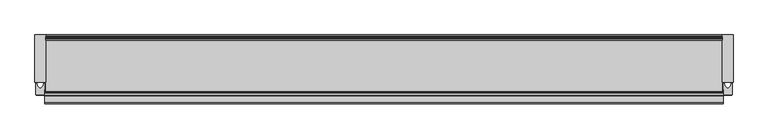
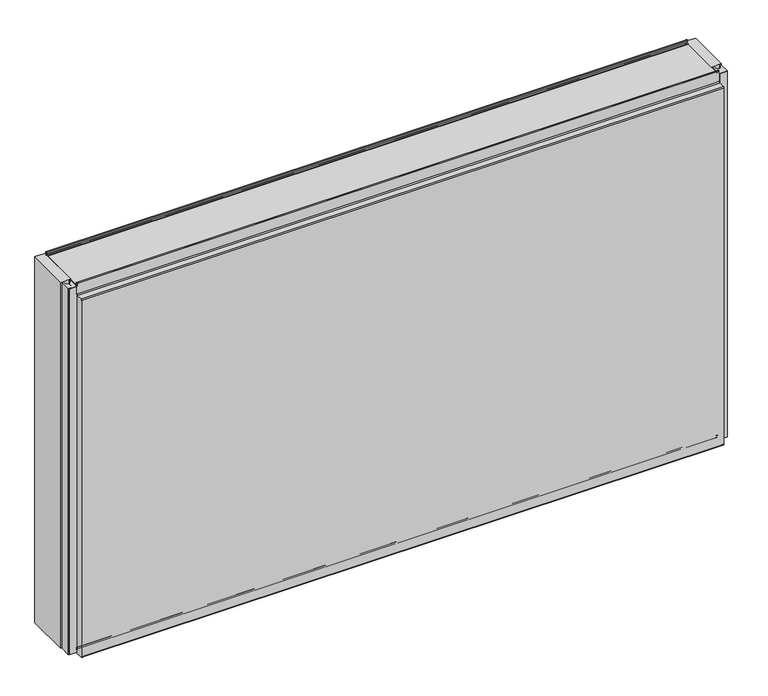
"""IFC4 building model written with IfcOpenShell, lengths in millimetres: plate geometry, Fronttop : Fronttop 200/1190."""

from ifc_helpers import new_model, si_unit, point, frame, frame_2d, origin, origin_with_axes, place, context, project, spatial, polyline, circle_curve, trimmed, segment, composite_curve, outline, extrude, source, transform, mapped, element, save
from ifc_brep_helpers import plane_surface, cylinder_surface, revolved_surface, advanced_brep


def plate_f993ad24(model_context):
    return source(origin(), model_context, "Body", "SolidModel", [
        advanced_brep(
        [(-986.5, -174.0, 1198.0), (-986.5, -174.0, 1190.0), (-986.5, -175.0, 1190.0), (-986.5, -175.0, 1198.0), (-986.5, -170.0, 1198.0), (-986.5, -170.0, 1194.0), (-986.5, -167.0, 1191.0), (-986.5, -165.0, 1191.0), (-986.5, -165.0, 1190.0), (-986.5, -167.0, 1190.0), (-986.5, -171.0, 1194.0), (-986.5, -171.0, 1198.0), (986.5, -175.0, 1198.0), (986.5, -175.0, 1190.0), (986.5, -174.0, 1190.0), (986.5, -174.0, 1198.0), (986.5, -171.0, 1198.0), (986.5, -171.0, 1194.0), (986.5, -167.0, 1190.0), (986.5, -165.0, 1190.0), (986.5, -165.0, 1191.0), (986.5, -167.0, 1191.0), (986.5, -170.0, 1194.0), (986.5, -170.0, 1198.0), (-986.5, -167.0, 2.0), (-986.5, -165.0, 2.0), (986.5, -165.0, 2.0), (986.5, -167.0, 2.0), (986.5, -169.0, 4.0), (-986.5, -169.0, 4.0), (986.5, -169.0, 8.0), (-986.5, -169.0, 8.0), (986.5, -176.0, 8.0), (-986.5, -176.0, 8.0), (986.5, -176.0, 0.0), (-986.5, -176.0, 0.0), (986.5, -179.0, -3.0), (-986.5, -179.0, -3.0), (986.5, -175.0, -3.0), (987.5, -175.0, -3.0), (987.5, -197.0, -3.0), (986.5, -197.0, -3.0), (-986.5, -197.0, -3.0), (-987.5, -197.0, -3.0), (-987.5, -175.0, -3.0), (-986.5, -175.0, -3.0), (986.5, -200.0, 0.0), (-986.5, -200.0, 0.0), (987.5, -200.0, 0.0), (987.5, -200.0, 1159.0), (986.5, -200.0, 1159.0), (-986.5, -200.0, 1159.0), (-987.5, -200.0, 1159.0), (-987.5, -200.0, 0.0), (986.5, -197.0, 1162.0), (-986.5, -197.0, 1162.0), (987.5, -197.0, 1162.0), (987.5, -178.0, 1162.0), (986.5, -178.0, 1162.0), (-986.5, -178.0, 1162.0), (-987.5, -178.0, 1162.0), (-987.5, -197.0, 1162.0), (986.5, -175.0, 1165.0), (-986.5, -175.0, 1165.0), (987.5, -175.0, 1165.0), (987.5, -175.0, 1190.0), (-987.5, -175.0, 1190.0), (-987.5, -175.0, 1165.0), (986.5, -174.0, 1165.0), (-986.5, -174.0, 1165.0), (986.5, -178.0, 1161.0), (-986.5, -178.0, 1161.0), (986.5, -197.0, 1161.0), (-986.5, -197.0, 1161.0), (986.5, -199.0, 1159.0), (-986.5, -199.0, 1159.0), (986.5, -199.0, 0.0), (-986.5, -199.0, 0.0), (986.5, -197.0, -2.0), (-986.5, -197.0, -2.0), (986.5, -179.0, -2.0), (-986.5, -179.0, -2.0), (986.5, -177.0, 0.0), (-986.5, -177.0, 0.0), (986.5, -177.0, 8.0), (-986.5, -177.0, 8.0), (986.5, -168.0, 8.0), (-986.5, -168.0, 8.0), (986.5, -168.0, 4.0), (-986.5, -168.0, 4.0), (986.5, -167.0, 3.0), (-986.5, -167.0, 3.0), (986.5, -165.0, 3.0), (-986.5, -165.0, 3.0), (987.5, -175.0, 0.0), (987.5, -160.0, 0.0), (987.5, -160.0, 1190.0), (986.5, -160.0, 1190.0), (986.5, -160.0, 0.0), (986.5, -175.0, 0.0), (-987.5, -160.0, 1190.0), (-987.5, -160.0, 0.0), (-987.5, -175.0, 0.0), (-986.5, -160.0, 1190.0), (-986.5, -175.0, 0.0), (-986.5, -160.0, 0.0)],
        [
            (0, 1),
            (1, 2),
            (2, 3),
            (3, 4, circle_curve(frame((-986.5, -172.5, 1198.0), z_axis=(-1.0, 0.0, 0.0), x_axis=(0.0, 1.0, 0.0)), 2.5)),
            (4, 5),
            (5, 6, circle_curve(frame((-986.5, -167.0, 1194.0), z_axis=(1.0, 0.0, 0.0), x_axis=(0.0, 1.0, 0.0)), 3.0)),
            (6, 7),
            (7, 8),
            (8, 9),
            (9, 10, circle_curve(frame((-986.5, -167.0, 1194.0), z_axis=(-1.0, 0.0, 0.0), x_axis=(0.0, 1.0, 0.0)), 4.0)),
            (10, 11),
            (11, 0, circle_curve(frame((-986.5, -172.5, 1198.0), z_axis=(1.0, 0.0, 0.0), x_axis=(0.0, 1.0, 0.0)), 1.5)),
            (12, 13),
            (13, 14),
            (14, 15),
            (15, 16, circle_curve(frame((986.5, -172.5, 1198.0), z_axis=(-1.0, 0.0, 0.0), x_axis=(0.0, 1.0, 0.0)), 1.5)),
            (16, 17),
            (17, 18, circle_curve(frame((986.5, -167.0, 1194.0), z_axis=(1.0, 0.0, 0.0), x_axis=(0.0, 1.0, 0.0)), 4.0)),
            (18, 19),
            (19, 20),
            (20, 21),
            (21, 22, circle_curve(frame((986.5, -167.0, 1194.0), z_axis=(-1.0, 0.0, 0.0), x_axis=(0.0, 1.0, 0.0)), 3.0)),
            (22, 23),
            (23, 12, circle_curve(frame((986.5, -172.5, 1198.0), z_axis=(1.0, 0.0, 0.0), x_axis=(0.0, 1.0, 0.0)), 2.5)),
            (24, 25),
            (25, 26),
            (26, 27),
            (27, 24),
            (27, 28, circle_curve(frame((986.5, -167.0, 4.0), z_axis=(-1.0, 0.0, 0.0), x_axis=(0.0, 1.0, 0.0)), 2.0)),
            (28, 29),
            (29, 24, circle_curve(frame((-986.5, -167.0, 4.0), z_axis=(1.0, 0.0, 0.0), x_axis=(0.0, 1.0, 0.0)), 2.0)),
            (28, 30),
            (30, 31),
            (31, 29),
            (30, 32, circle_curve(frame((986.5, -172.5, 8.0), z_axis=(1.0, 0.0, 0.0), x_axis=(0.0, 1.0, 0.0)), 3.5)),
            (32, 33),
            (33, 31, circle_curve(frame((-986.5, -172.5, 8.0), z_axis=(-1.0, 0.0, 0.0), x_axis=(0.0, 1.0, 0.0)), 3.5)),
            (32, 34),
            (34, 35),
            (35, 33),
            (34, 36, circle_curve(frame((986.5, -179.0, 0.0), z_axis=(-1.0, 0.0, 0.0), x_axis=(0.0, 1.0, 0.0)), 3.0)),
            (36, 37),
            (37, 35, circle_curve(frame((-986.5, -179.0, 0.0), z_axis=(1.0, 0.0, 0.0), x_axis=(0.0, 1.0, 0.0)), 3.0)),
            (36, 38),
            (38, 39),
            (39, 40),
            (40, 41),
            (41, 42),
            (42, 43),
            (43, 44),
            (44, 45),
            (45, 37),
            (41, 46, circle_curve(frame((986.5, -197.0, 0.0), z_axis=(-1.0, 0.0, 0.0), x_axis=(0.0, 1.0, 0.0)), 3.0)),
            (46, 47),
            (47, 42, circle_curve(frame((-986.5, -197.0, 0.0), z_axis=(1.0, 0.0, 0.0), x_axis=(0.0, 1.0, 0.0)), 3.0)),
            (46, 48),
            (48, 49),
            (49, 50),
            (50, 51),
            (51, 52),
            (52, 53),
            (53, 47),
            (50, 54, circle_curve(frame((986.5, -197.0, 1159.0), z_axis=(-1.0, 0.0, 0.0), x_axis=(0.0, 1.0, 0.0)), 3.0)),
            (54, 55),
            (55, 51, circle_curve(frame((-986.5, -197.0, 1159.0), z_axis=(1.0, 0.0, 0.0), x_axis=(0.0, 1.0, 0.0)), 3.0)),
            (54, 56),
            (56, 57),
            (57, 58),
            (58, 59),
            (59, 60),
            (60, 61),
            (61, 55),
            (58, 62, circle_curve(frame((986.5, -178.0, 1165.0), z_axis=(1.0, 0.0, 0.0), x_axis=(0.0, 1.0, 0.0)), 3.0)),
            (62, 63),
            (63, 59, circle_curve(frame((-986.5, -178.0, 1165.0), z_axis=(-1.0, 0.0, 0.0), x_axis=(0.0, 1.0, 0.0)), 3.0)),
            (62, 64),
            (64, 65),
            (65, 13),
            (12, 3),
            (2, 66),
            (66, 67),
            (67, 63),
            (23, 4),
            (22, 5),
            (21, 6),
            (20, 7),
            (19, 8),
            (19, 18),
            (18, 9),
            (9, 8),
            (17, 10),
            (16, 11),
            (15, 0),
            (14, 68),
            (68, 69),
            (69, 1),
            (68, 70, circle_curve(frame((986.5, -178.0, 1165.0), z_axis=(-1.0, 0.0, 0.0), x_axis=(0.0, 1.0, 0.0)), 4.0)),
            (70, 71),
            (71, 69, circle_curve(frame((-986.5, -178.0, 1165.0), z_axis=(1.0, 0.0, 0.0), x_axis=(0.0, 1.0, 0.0)), 4.0)),
            (70, 72),
            (72, 73),
            (73, 71),
            (72, 74, circle_curve(frame((986.5, -197.0, 1159.0), z_axis=(1.0, 0.0, 0.0), x_axis=(0.0, 1.0, 0.0)), 2.0)),
            (74, 75),
            (75, 73, circle_curve(frame((-986.5, -197.0, 1159.0), z_axis=(-1.0, 0.0, 0.0), x_axis=(0.0, 1.0, 0.0)), 2.0)),
            (74, 76),
            (76, 77),
            (77, 75),
            (76, 78, circle_curve(frame((986.5, -197.0, 0.0), z_axis=(1.0, 0.0, 0.0), x_axis=(0.0, 1.0, 0.0)), 2.0)),
            (78, 79),
            (79, 77, circle_curve(frame((-986.5, -197.0, 0.0), z_axis=(-1.0, 0.0, 0.0), x_axis=(0.0, 1.0, 0.0)), 2.0)),
            (78, 80),
            (80, 81),
            (81, 79),
            (80, 82, circle_curve(frame((986.5, -179.0, 0.0), z_axis=(1.0, 0.0, 0.0), x_axis=(0.0, 1.0, 0.0)), 2.0)),
            (82, 83),
            (83, 81, circle_curve(frame((-986.5, -179.0, 0.0), z_axis=(-1.0, 0.0, 0.0), x_axis=(0.0, 1.0, 0.0)), 2.0)),
            (82, 84),
            (84, 85),
            (85, 83),
            (84, 86, circle_curve(frame((986.5, -172.5, 8.0), z_axis=(-1.0, 0.0, 0.0), x_axis=(0.0, 1.0, 0.0)), 4.5)),
            (86, 87),
            (87, 85, circle_curve(frame((-986.5, -172.5, 8.0), z_axis=(1.0, 0.0, 0.0), x_axis=(0.0, 1.0, 0.0)), 4.5)),
            (86, 88),
            (88, 89),
            (89, 87),
            (88, 90, circle_curve(frame((986.5, -167.0, 4.0), z_axis=(1.0, 0.0, 0.0), x_axis=(0.0, 1.0, 0.0)), 1.0)),
            (90, 91),
            (91, 89, circle_curve(frame((-986.5, -167.0, 4.0), z_axis=(-1.0, 0.0, 0.0), x_axis=(0.0, 1.0, 0.0)), 1.0)),
            (90, 92),
            (92, 93),
            (93, 91),
            (25, 93),
            (92, 26),
            (64, 57, circle_curve(frame((987.5, -178.0, 1165.0), z_axis=(-1.0, 0.0, 0.0), x_axis=(0.0, -1.0, 0.0)), 3.0)),
            (56, 49, circle_curve(frame((987.5, -197.0, 1159.0), z_axis=(1.0, 0.0, 0.0), x_axis=(0.0, -1.0, 0.0)), 3.0)),
            (48, 40, circle_curve(frame((987.5, -197.0, 0.0), z_axis=(1.0, 0.0, 0.0), x_axis=(0.0, -1.0, 0.0)), 3.0)),
            (39, 94),
            (94, 95),
            (95, 96),
            (96, 65),
            (14, 18),
            (19, 97),
            (97, 98),
            (98, 99),
            (99, 38),
            (96, 97),
            (95, 98),
            (94, 99),
            (66, 100),
            (100, 101),
            (101, 102),
            (102, 44),
            (43, 53, circle_curve(frame((-987.5, -197.0, 0.0), z_axis=(-1.0, 0.0, 0.0), x_axis=(0.0, -1.0, 0.0)), 3.0)),
            (52, 61, circle_curve(frame((-987.5, -197.0, 1159.0), z_axis=(-1.0, 0.0, 0.0), x_axis=(0.0, -1.0, 0.0)), 3.0)),
            (60, 67, circle_curve(frame((-987.5, -178.0, 1165.0), z_axis=(1.0, 0.0, 0.0), x_axis=(0.0, -1.0, 0.0)), 3.0)),
            (103, 8),
            (9, 1),
            (45, 104),
            (104, 105),
            (105, 103),
            (103, 100),
            (105, 101),
            (104, 102),
        ],
        [
            plane_surface(frame((-986.5, 0.0, 0.0), z_axis=(-1.0, 0.0, 0.0), x_axis=(0.0, 0.0, 1.0))),
            plane_surface(frame((986.5, 0.0, 0.0), z_axis=(1.0, 0.0, 0.0), x_axis=(0.0, 0.0, 1.0))),
            plane_surface(frame((-986.5, -167.0, 2.0), z_axis=(0.0, 0.0, -1.0), x_axis=(1.0, 0.0, 0.0))),
            cylinder_surface(frame((-986.5, -167.0, 4.0), z_axis=(-1.0, 0.0, 0.0), x_axis=(0.0, 1.0, 0.0)), 2.0),
            plane_surface(frame((-986.5, -169.0, 8.0), z_axis=(0.0, -1.0, 0.0), x_axis=(1.0, 0.0, 0.0))),
            revolved_surface(polyline([(986.5, -169.0, 8.0), (-986.5, -169.0, 8.0)]), (-986.5, -172.5, 8.0), (1.0, 0.0, 0.0)),
            plane_surface(frame((-986.5, -176.0, 0.0), z_axis=(0.0, 1.0, 0.0), x_axis=(1.0, 0.0, 0.0))),
            cylinder_surface(frame((-986.5, -179.0, 0.0), z_axis=(-1.0, 0.0, 0.0), x_axis=(0.0, 1.0, 0.0)), 3.0),
            plane_surface(frame((-986.5, -197.0, -3.0), z_axis=(0.0, 0.0, -1.0), x_axis=(1.0, 0.0, 0.0))),
            cylinder_surface(frame((-986.5, -197.0, 0.0), z_axis=(-1.0, 0.0, 0.0), x_axis=(0.0, 1.0, 0.0)), 3.0),
            plane_surface(frame((-986.5, -200.0, 1159.0), z_axis=(0.0, -1.0, 0.0), x_axis=(1.0, 0.0, 0.0))),
            cylinder_surface(frame((-986.5, -197.0, 1159.0), z_axis=(-1.0, 0.0, 0.0), x_axis=(0.0, 1.0, 0.0)), 3.0),
            plane_surface(frame((-986.5, -178.0, 1162.0), z_axis=(0.0, 0.0, 1.0), x_axis=(1.0, 0.0, 0.0))),
            revolved_surface(polyline([(986.5, -175.0, 1165.0), (-986.5, -175.0, 1165.0)]), (-986.5, -178.0, 1165.0), (1.0, 0.0, 0.0)),
            plane_surface(frame((-986.5, -175.0, 1198.0), z_axis=(0.0, -1.0, 0.0), x_axis=(1.0, 0.0, 0.0))),
            cylinder_surface(frame((-986.5, -172.5, 1198.0), z_axis=(-1.0, 0.0, 0.0), x_axis=(0.0, 1.0, 0.0)), 2.5),
            plane_surface(frame((-986.5, -170.0, 1194.0), z_axis=(0.0, 1.0, 0.0), x_axis=(1.0, 0.0, 0.0))),
            revolved_surface(polyline([(986.5, -164.0, 1194.0), (-986.5, -164.0, 1194.0)]), (-986.5, -167.0, 1194.0), (1.0, 0.0, 0.0)),
            plane_surface(frame((-986.5, -165.0, 1191.0), z_axis=(0.0, 0.0, 1.0), x_axis=(1.0, 0.0, 0.0))),
            plane_surface(frame((-986.5, -165.0, 1190.0), z_axis=(0.0, 1.0, 0.0), x_axis=(1.0, 0.0, 0.0))),
            plane_surface(frame((-986.5, -167.0, 1190.0), z_axis=(0.0, 0.0, -1.0), x_axis=(1.0, 0.0, 0.0))),
            cylinder_surface(frame((-986.5, -167.0, 1194.0), z_axis=(-1.0, 0.0, 0.0), x_axis=(0.0, 1.0, 0.0)), 4.0),
            plane_surface(frame((-986.5, -171.0, 1198.0), z_axis=(0.0, -1.0, 0.0), x_axis=(1.0, 0.0, 0.0))),
            revolved_surface(polyline([(986.5, -171.0, 1198.0), (-986.5, -171.0, 1198.0)]), (-986.5, -172.5, 1198.0), (1.0, 0.0, 0.0)),
            plane_surface(frame((-986.5, -174.0, 1165.0), z_axis=(0.0, 1.0, 0.0), x_axis=(1.0, 0.0, 0.0))),
            cylinder_surface(frame((-986.5, -178.0, 1165.0), z_axis=(-1.0, 0.0, 0.0), x_axis=(0.0, 1.0, 0.0)), 4.0),
            plane_surface(frame((-986.5, -197.0, 1161.0), z_axis=(0.0, 0.0, -1.0), x_axis=(1.0, 0.0, 0.0))),
            revolved_surface(polyline([(986.5, -195.0, 1159.0), (-986.5, -195.0, 1159.0)]), (-986.5, -197.0, 1159.0), (1.0, 0.0, 0.0)),
            plane_surface(frame((-986.5, -199.0, 0.0), z_axis=(0.0, 1.0, 0.0), x_axis=(1.0, 0.0, 0.0))),
            revolved_surface(polyline([(986.5, -195.0, 0.0), (-986.5, -195.0, 0.0)]), (-986.5, -197.0, 0.0), (1.0, 0.0, 0.0)),
            plane_surface(frame((-986.5, -179.0, -2.0), z_axis=(0.0, 0.0, 1.0), x_axis=(1.0, 0.0, 0.0))),
            revolved_surface(polyline([(986.5, -177.0, 0.0), (-986.5, -177.0, 0.0)]), (-986.5, -179.0, 0.0), (1.0, 0.0, 0.0)),
            plane_surface(frame((-986.5, -177.0, 8.0), z_axis=(0.0, -1.0, 0.0), x_axis=(1.0, 0.0, 0.0))),
            cylinder_surface(frame((-986.5, -172.5, 8.0), z_axis=(-1.0, 0.0, 0.0), x_axis=(0.0, 1.0, 0.0)), 4.5),
            plane_surface(frame((-986.5, -168.0, 4.0), z_axis=(0.0, 1.0, 0.0), x_axis=(1.0, 0.0, 0.0))),
            revolved_surface(polyline([(986.5, -166.0, 4.0), (-986.5, -166.0, 4.0)]), (-986.5, -167.0, 4.0), (1.0, 0.0, 0.0)),
            plane_surface(frame((-986.5, -165.0, 3.0), z_axis=(0.0, 0.0, 1.0), x_axis=(1.0, 0.0, 0.0))),
            plane_surface(frame((-986.5, -165.0, 2.0), z_axis=(0.0, 1.0, 0.0), x_axis=(1.0, 0.0, 0.0))),
            plane_surface(frame((987.5, -175.0, 1190.0), z_axis=(1.0, 0.0, 0.0), x_axis=(0.0, 1.0, 0.0))),
            plane_surface(frame((986.5, -175.0, 1190.0), z_axis=(-1.0, 0.0, 0.0), x_axis=(0.0, -1.0, 0.0))),
            plane_surface(frame((987.5, -175.0, 1190.0), z_axis=(0.0, 0.0, 1.0), x_axis=(-1.0, 0.0, 0.0))),
            plane_surface(frame((987.5, -160.0, 1190.0), z_axis=(0.0, 1.0, 0.0), x_axis=(-1.0, 0.0, 0.0))),
            plane_surface(frame((987.5, -160.0, 0.0), z_axis=(0.0, 0.0, -1.0), x_axis=(-1.0, 0.0, 0.0))),
            cylinder_surface(frame((986.5, -197.0, 0.0), z_axis=(1.0, 0.0, 0.0), x_axis=(0.0, -1.0, 0.0)), 3.0),
            cylinder_surface(frame((986.5, -197.0, 1159.0), z_axis=(1.0, 0.0, 0.0), x_axis=(0.0, -1.0, 0.0)), 3.0),
            revolved_surface(polyline([(986.5, -181.0, 1165.0), (987.5, -181.0, 1165.0)]), (986.5, -178.0, 1165.0), (-1.0, 0.0, 0.0)),
            plane_surface(frame((-987.5, -175.0, 1190.0), z_axis=(-1.0, 0.0, 0.0), x_axis=(0.0, -1.0, 0.0))),
            plane_surface(frame((-986.5, -175.0, 1190.0), z_axis=(1.0, 0.0, 0.0), x_axis=(0.0, 1.0, 0.0))),
            plane_surface(frame((-986.5, -175.0, 1190.0), z_axis=(0.0, 0.0, 1.0), x_axis=(-1.0, 0.0, 0.0))),
            plane_surface(frame((-986.5, -160.0, 1190.0), z_axis=(0.0, 1.0, 0.0), x_axis=(-1.0, 0.0, 0.0))),
            plane_surface(frame((-986.5, -160.0, 0.0), z_axis=(0.0, 0.0, -1.0), x_axis=(-1.0, 0.0, 0.0))),
            cylinder_surface(frame((-987.5, -197.0, 0.0), z_axis=(1.0, 0.0, 0.0), x_axis=(0.0, -1.0, 0.0)), 3.0),
            cylinder_surface(frame((-987.5, -197.0, 1159.0), z_axis=(1.0, 0.0, 0.0), x_axis=(0.0, -1.0, 0.0)), 3.0),
            revolved_surface(polyline([(-987.5, -181.0, 1165.0), (-986.5, -181.0, 1165.0)]), (-987.5, -178.0, 1165.0), (-1.0, 0.0, 0.0)),
            plane_surface(frame((987.5, -175.0, 0.0), z_axis=(0.0, 1.0, 0.0), x_axis=(-1.0, 0.0, 0.0))),
            plane_surface(frame((-986.5, -175.0, 0.0), z_axis=(0.0, 1.0, 0.0), x_axis=(-1.0, 0.0, 0.0))),
        ],
        [
            (0, [[1, 2, 3, 4, 5, 6, 7, 8, 9, 10, 11, 12]]),
            (1, [[13, 14, 15, 16, 17, 18, 19, 20, 21, 22, 23, 24]]),
            (2, [[25, 26, 27, 28]]),
            (3, [[29, 30, 31, -28]]),
            (4, [[32, 33, 34, -30]]),
            (5, [[35, 36, 37, -33]]),
            (6, [[38, 39, 40, -36]]),
            (7, [[41, 42, 43, -39]]),
            (8, [[44, 45, 46, 47, 48, 49, 50, 51, 52, -42]]),
            (9, [[53, 54, 55, -48]]),
            (10, [[56, 57, 58, 59, 60, 61, 62, -54]]),
            (11, [[63, 64, 65, -59]]),
            (12, [[66, 67, 68, 69, 70, 71, 72, -64]]),
            (13, [[73, 74, 75, -69]]),
            (14, [[76, 77, 78, -13, 79, -3, 80, 81, 82, -74]]),
            (15, [[-79, -24, 83, -4]]),
            (16, [[-83, -23, 84, -5]]),
            (17, [[-84, -22, 85, -6]]),
            (18, [[-85, -21, 86, -7]]),
            (19, [[-86, -20, 87, -8]]),
            (20, [[88, 89, 90, -87]]),
            (21, [[-89, -18, 91, -10]]),
            (22, [[-91, -17, 92, -11]]),
            (23, [[-92, -16, 93, -12]]),
            (24, [[-15, 94, 95, 96, -1, -93]]),
            (25, [[97, 98, 99, -95]]),
            (26, [[100, 101, 102, -98]]),
            (27, [[103, 104, 105, -101]]),
            (28, [[106, 107, 108, -104]]),
            (29, [[109, 110, 111, -107]]),
            (30, [[112, 113, 114, -110]]),
            (31, [[115, 116, 117, -113]]),
            (32, [[118, 119, 120, -116]]),
            (33, [[121, 122, 123, -119]]),
            (34, [[124, 125, 126, -122]]),
            (35, [[127, 128, 129, -125]]),
            (36, [[130, 131, 132, -128]]),
            (37, [[133, -131, 134, -26]]),
            (38, [[-77, 135, -67, 136, -57, 137, -46, 138, 139, 140, 141]]),
            (39, [[-44, -41, -38, -35, -32, -29, -27, -134, -130, -127, -124, -121, -118, -115, -112, -109, -106, -103, -100, -97, -94, 142, -88, 143, 144, 145, 146]]),
            (40, [[147, -143, -19, -142, -14, -78, -141]]),
            (41, [[148, -144, -147, -140]]),
            (42, [[149, -145, -148, -139]]),
            (43, [[-56, -53, -47, -137]]),
            (44, [[-66, -63, -58, -136]]),
            (45, [[-76, -73, -68, -135]]),
            (46, [[150, 151, 152, 153, -50, 154, -61, 155, -71, 156, -81]]),
            (47, [[157, -90, 158, -96, -99, -102, -105, -108, -111, -114, -117, -120, -123, -126, -129, -132, -133, -25, -31, -34, -37, -40, -43, -52, 159, 160, 161]]),
            (48, [[-80, -2, -158, -9, -157, 162, -150]]),
            (49, [[-162, -161, 163, -151]]),
            (50, [[-163, -160, 164, -152]]),
            (51, [[-49, -55, -62, -154]]),
            (52, [[-60, -65, -72, -155]]),
            (53, [[-70, -75, -82, -156]]),
            (54, [[-45, -146, -149, -138]]),
            (55, [[-164, -159, -51, -153]]),
        ],
    ),
        extrude(outline(composite_curve([segment(polyline([(-1012.5001545, -173.5), (-1012.5001545, -140.0), (-1009.75, -140.0), (-1009.75, -142.5)]), True, "CONTINUOUS"), segment(trimmed(circle_curve(frame_2d((-991.9661979, -139.3183984)), 18.0661619), [point((-1009.75, -142.5))], [point((-1000.0, -155.5))], True, "CARTESIAN"), True, "CONTINUOUS"), segment(trimmed(circle_curve(frame_2d((-1008.0338021, -139.3183984)), 18.0661619), [point((-1000.0, -155.5))], [point((-990.25, -142.5))], True, "CARTESIAN"), True, "CONTINUOUS"), segment(polyline([(-990.25, -142.5), (-990.25, -140.0), (-987.4998455, -140.0), (-987.4998455, -173.5), (-999.25, -173.5), (-999.25, -157.5), (-1000.75, -157.5), (-1000.75, -173.5), (-1012.5001545, -173.5)]), True, "CONTINUOUS")], self_intersect=False)), origin_with_axes(), (0.0, 0.0, 1.0), 1190.0),
        extrude(outline(polyline([(-984.5, 0.0), (-984.5, -138.0), (-1015.5, -138.0), (-1015.5, 0.0), (-984.5, 0.0)])), origin_with_axes(), (0.0, 0.0, 1.0), 1190.0),
        extrude(outline(polyline([(-1011.5051154, -175.0), (-1011.5051154, -173.5), (-1000.65, -173.5), (-1000.65, -159.0759655), (-999.3497504, -159.0759655), (-999.3497504, -173.5), (-988.4948846, -173.5), (-988.4948846, -175.0), (-1011.5051154, -175.0)])), origin_with_axes(), (0.0, 0.0, 1.0), 1190.0),
        extrude(outline(composite_curve([segment(polyline([(987.4998455, -173.5), (987.4998455, -140.0), (990.25, -140.0), (990.25, -142.5)]), True, "CONTINUOUS"), segment(trimmed(circle_curve(frame_2d((1008.0338021, -139.3183984)), 18.0661619), [point((990.25, -142.5))], [point((1000.0, -155.5))], True, "CARTESIAN"), True, "CONTINUOUS"), segment(trimmed(circle_curve(frame_2d((991.9661979, -139.3183984)), 18.0661619), [point((1000.0, -155.5))], [point((1009.75, -142.5))], True, "CARTESIAN"), True, "CONTINUOUS"), segment(polyline([(1009.75, -142.5), (1009.75, -140.0), (1012.5001545, -140.0), (1012.5001545, -173.5), (1000.75, -173.5), (1000.75, -157.5), (999.25, -157.5), (999.25, -173.5), (987.4998455, -173.5)]), True, "CONTINUOUS")], self_intersect=False)), origin_with_axes(), (0.0, 0.0, 1.0), 1190.0),
        extrude(outline(polyline([(1015.5, 0.0), (1015.5, -138.0), (984.5, -138.0), (984.5, 0.0), (1015.5, 0.0)])), origin_with_axes(), (0.0, 0.0, 1.0), 1190.0),
        extrude(outline(polyline([(988.4948846, -175.0), (988.4948846, -173.5), (999.35, -173.5), (999.35, -159.0759655), (1000.6502496, -159.0759655), (1000.6502496, -173.5), (1011.5051154, -173.5), (1011.5051154, -175.0), (988.4948846, -175.0)])), origin_with_axes(), (0.0, 0.0, 1.0), 1190.0),
        advanced_brep(
        [(-984.5, -13.0, 1191.0), (-984.5, -10.0, 1194.0), (-984.5, -10.0, 1198.0), (-984.5, -5.0, 1198.0), (-984.5, -5.0, 1189.5), (-984.5, -2.2239212, 1187.0152907), (-984.5, 0.0, 1185.0), (-984.5, 0.0, -0.5), (-984.5, -4.0, -0.5), (-984.5, -4.0, 8.0), (-984.5, -11.0, 8.0), (-984.5, -11.0, 4.0), (-984.5, -13.0, 2.0), (-984.5, -15.0, 2.0), (-984.5, -15.0, 3.0), (-984.5, -13.0, 3.0), (-984.5, -12.0, 4.0), (-984.5, -12.0, 8.0), (-984.5, -3.0, 8.0), (-984.5, -3.0, -0.5), (-984.5, -1.0, -0.5), (-984.5, -1.0, 1185.0), (-984.5, -2.1104315, 1185.9938837), (-984.5, -6.0, 1189.5), (-984.5, -6.0, 1198.0), (-984.5, -9.0, 1198.0), (-984.5, -9.0, 1194.0), (-984.5, -13.0, 1190.0), (-984.5, -15.0, 1190.0), (-984.5, -15.0, 1191.0), (984.5, -13.0, 1191.0), (984.5, -15.0, 1191.0), (984.5, -15.0, 1190.0), (984.5, -13.0, 1190.0), (984.5, -9.0, 1194.0), (984.5, -9.0, 1198.0), (984.5, -6.0, 1198.0), (984.5, -6.0, 1189.5), (984.5, -2.1134897, 1186.0214069), (984.5, -1.0, 1185.0), (984.5, -1.0, -0.5), (984.5, -3.0, -0.5), (984.5, -3.0, 8.0), (984.5, -12.0, 8.0), (984.5, -12.0, 4.0), (984.5, -13.0, 3.0), (984.5, -15.0, 3.0), (984.5, -15.0, 2.0), (984.5, -13.0, 2.0), (984.5, -11.0, 4.0), (984.5, -11.0, 8.0), (984.5, -4.0, 8.0), (984.5, -4.0, -0.5), (984.5, 0.0, -0.5), (984.5, 0.0, 1185.0), (984.5, -2.220863, 1186.9877675), (984.5, -5.0, 1189.5), (984.5, -5.0, 1198.0), (984.5, -10.0, 1198.0), (984.5, -10.0, 1194.0)],
        [
            (0, 1, circle_curve(frame((-984.5, -13.0, 1194.0), z_axis=(1.0, 0.0, 0.0), x_axis=(0.0, 1.0, 0.0)), 3.0)),
            (1, 2),
            (2, 3, circle_curve(frame((-984.5, -7.5, 1198.0), z_axis=(-1.0, 0.0, 0.0), x_axis=(0.0, 1.0, 0.0)), 2.5)),
            (3, 4),
            (4, 5, circle_curve(frame((-984.5, -2.5, 1189.5), z_axis=(1.0, 0.0, 0.0), x_axis=(0.0, 1.0, 0.0)), 2.5)),
            (5, 6, circle_curve(frame((-984.5, -2.0, 1185.0), z_axis=(-1.0, 0.0, 0.0), x_axis=(0.0, 1.0, 0.0)), 2.0)),
            (6, 7),
            (7, 8, circle_curve(frame((-984.5, -2.0, -0.5), z_axis=(-1.0, 0.0, 0.0), x_axis=(0.0, 1.0, 0.0)), 2.0)),
            (8, 9),
            (9, 10, circle_curve(frame((-984.5, -7.5, 8.0), z_axis=(1.0, 0.0, 0.0), x_axis=(0.0, 1.0, 0.0)), 3.5)),
            (10, 11),
            (11, 12, circle_curve(frame((-984.5, -13.0, 4.0), z_axis=(-1.0, 0.0, 0.0), x_axis=(0.0, 1.0, 0.0)), 2.0)),
            (12, 13),
            (13, 14),
            (14, 15),
            (15, 16, circle_curve(frame((-984.5, -13.0, 4.0), z_axis=(1.0, 0.0, 0.0), x_axis=(0.0, 1.0, 0.0)), 1.0)),
            (16, 17),
            (17, 18, circle_curve(frame((-984.5, -7.5, 8.0), z_axis=(-1.0, 0.0, 0.0), x_axis=(0.0, 1.0, 0.0)), 4.5)),
            (18, 19),
            (19, 20, circle_curve(frame((-984.5, -2.0, -0.5), z_axis=(1.0, 0.0, 0.0), x_axis=(0.0, 1.0, 0.0)), 1.0)),
            (20, 21),
            (21, 22, circle_curve(frame((-984.5, -2.0, 1185.0), z_axis=(1.0, 0.0, 0.0), x_axis=(0.0, 1.0, 0.0)), 1.0)),
            (22, 23, circle_curve(frame((-984.5, -2.5, 1189.5), z_axis=(-1.0, 0.0, 0.0), x_axis=(0.0, 1.0, 0.0)), 3.5)),
            (23, 24),
            (24, 25, circle_curve(frame((-984.5, -7.5, 1198.0), z_axis=(1.0, 0.0, 0.0), x_axis=(0.0, 1.0, 0.0)), 1.5)),
            (25, 26),
            (26, 27, circle_curve(frame((-984.5, -13.0, 1194.0), z_axis=(-1.0, 0.0, 0.0), x_axis=(0.0, 1.0, 0.0)), 4.0)),
            (27, 28),
            (28, 29),
            (29, 0),
            (30, 31),
            (31, 32),
            (32, 33),
            (33, 34, circle_curve(frame((984.5, -13.0, 1194.0), z_axis=(1.0, 0.0, 0.0), x_axis=(0.0, 1.0, 0.0)), 4.0)),
            (34, 35),
            (35, 36, circle_curve(frame((984.5, -7.5, 1198.0), z_axis=(-1.0, 0.0, 0.0), x_axis=(0.0, 1.0, 0.0)), 1.5)),
            (36, 37),
            (37, 38, circle_curve(frame((984.5, -2.5, 1189.5), z_axis=(1.0, 0.0, 0.0), x_axis=(0.0, 1.0, 0.0)), 3.5)),
            (38, 39, circle_curve(frame((984.5, -2.0, 1185.0), z_axis=(-1.0, 0.0, 0.0), x_axis=(0.0, 1.0, 0.0)), 1.0)),
            (39, 40),
            (40, 41, circle_curve(frame((984.5, -2.0, -0.5), z_axis=(-1.0, 0.0, 0.0), x_axis=(0.0, 1.0, 0.0)), 1.0)),
            (41, 42),
            (42, 43, circle_curve(frame((984.5, -7.5, 8.0), z_axis=(1.0, 0.0, 0.0), x_axis=(0.0, 1.0, 0.0)), 4.5)),
            (43, 44),
            (44, 45, circle_curve(frame((984.5, -13.0, 4.0), z_axis=(-1.0, 0.0, 0.0), x_axis=(0.0, 1.0, 0.0)), 1.0)),
            (45, 46),
            (46, 47),
            (47, 48),
            (48, 49, circle_curve(frame((984.5, -13.0, 4.0), z_axis=(1.0, 0.0, 0.0), x_axis=(0.0, 1.0, 0.0)), 2.0)),
            (49, 50),
            (50, 51, circle_curve(frame((984.5, -7.5, 8.0), z_axis=(-1.0, 0.0, 0.0), x_axis=(0.0, 1.0, 0.0)), 3.5)),
            (51, 52),
            (52, 53, circle_curve(frame((984.5, -2.0, -0.5), z_axis=(1.0, 0.0, 0.0), x_axis=(0.0, 1.0, 0.0)), 2.0)),
            (53, 54),
            (54, 55, circle_curve(frame((984.5, -2.0, 1185.0), z_axis=(1.0, 0.0, 0.0), x_axis=(0.0, 1.0, 0.0)), 2.0)),
            (55, 56, circle_curve(frame((984.5, -2.5, 1189.5), z_axis=(-1.0, 0.0, 0.0), x_axis=(0.0, 1.0, 0.0)), 2.5)),
            (56, 57),
            (57, 58, circle_curve(frame((984.5, -7.5, 1198.0), z_axis=(1.0, 0.0, 0.0), x_axis=(0.0, 1.0, 0.0)), 2.5)),
            (58, 59),
            (59, 30, circle_curve(frame((984.5, -13.0, 1194.0), z_axis=(-1.0, 0.0, 0.0), x_axis=(0.0, 1.0, 0.0)), 3.0)),
            (29, 31),
            (30, 0),
            (28, 32),
            (27, 33),
            (26, 34),
            (25, 35),
            (24, 36),
            (23, 37),
            (22, 38),
            (21, 39),
            (20, 40),
            (19, 41),
            (18, 42),
            (17, 43),
            (16, 44),
            (15, 45),
            (14, 46),
            (13, 47),
            (12, 48),
            (11, 49),
            (10, 50),
            (9, 51),
            (8, 52),
            (7, 53),
            (6, 54),
            (5, 55),
            (4, 56),
            (3, 57),
            (2, 58),
            (1, 59),
        ],
        [
            plane_surface(frame((-984.5, 0.0, 0.0), z_axis=(-1.0, 0.0, 0.0), x_axis=(0.0, 0.0, 1.0))),
            plane_surface(frame((984.5, 0.0, 0.0), z_axis=(1.0, 0.0, 0.0), x_axis=(0.0, 0.0, 1.0))),
            plane_surface(frame((-984.5, -13.0, 1191.0), z_axis=(0.0, 0.0, 1.0), x_axis=(1.0, 0.0, 0.0))),
            plane_surface(frame((-984.5, -15.0, 1191.0), z_axis=(0.0, -1.0, 0.0), x_axis=(1.0, 0.0, 0.0))),
            plane_surface(frame((-984.5, -15.0, 1190.0), z_axis=(0.0, 0.0, -1.0), x_axis=(1.0, 0.0, 0.0))),
            cylinder_surface(frame((-984.5, -13.0, 1194.0), z_axis=(-1.0, 0.0, 0.0), x_axis=(0.0, 1.0, 0.0)), 4.0),
            plane_surface(frame((-984.5, -9.0, 1194.0), z_axis=(0.0, 1.0, 0.0), x_axis=(1.0, 0.0, 0.0))),
            revolved_surface(polyline([(984.5, -6.0, 1198.0), (-984.5, -6.0, 1198.0)]), (-984.5, -7.5, 1198.0), (1.0, 0.0, 0.0)),
            plane_surface(frame((-984.5, -6.0, 1198.0), z_axis=(0.0, -1.0, 0.0), x_axis=(1.0, 0.0, 0.0))),
            cylinder_surface(frame((-984.5, -2.5, 1189.5), z_axis=(-1.0, 0.0, 0.0), x_axis=(0.0, 1.0, 0.0)), 3.5),
            revolved_surface(polyline([(984.5, -1.0, 1185.0), (-984.5, -1.0, 1185.0)]), (-984.5, -2.0, 1185.0), (1.0, 0.0, 0.0)),
            plane_surface(frame((-984.5, -1.0, 1185.0), z_axis=(0.0, -1.0, 0.0), x_axis=(1.0, 0.0, 0.0))),
            revolved_surface(polyline([(984.5, -1.0, -0.5), (-984.5, -1.0, -0.5)]), (-984.5, -2.0, -0.5), (1.0, 0.0, 0.0)),
            plane_surface(frame((-984.5, -3.0, -0.5), z_axis=(0.0, 1.0, 0.0), x_axis=(1.0, 0.0, 0.0))),
            cylinder_surface(frame((-984.5, -7.5, 8.0), z_axis=(-1.0, 0.0, 0.0), x_axis=(0.0, 1.0, 0.0)), 4.5),
            plane_surface(frame((-984.5, -12.0, 8.0), z_axis=(0.0, -1.0, 0.0), x_axis=(1.0, 0.0, 0.0))),
            revolved_surface(polyline([(984.5, -12.0, 4.0), (-984.5, -12.0, 4.0)]), (-984.5, -13.0, 4.0), (1.0, 0.0, 0.0)),
            plane_surface(frame((-984.5, -13.0, 3.0), z_axis=(0.0, 0.0, 1.0), x_axis=(1.0, 0.0, 0.0))),
            plane_surface(frame((-984.5, -15.0, 3.0), z_axis=(0.0, -1.0, 0.0), x_axis=(1.0, 0.0, 0.0))),
            plane_surface(frame((-984.5, -15.0, 2.0), z_axis=(0.0, 0.0, -1.0), x_axis=(1.0, 0.0, 0.0))),
            cylinder_surface(frame((-984.5, -13.0, 4.0), z_axis=(-1.0, 0.0, 0.0), x_axis=(0.0, 1.0, 0.0)), 2.0),
            plane_surface(frame((-984.5, -11.0, 4.0), z_axis=(0.0, 1.0, 0.0), x_axis=(1.0, 0.0, 0.0))),
            revolved_surface(polyline([(984.5, -4.0, 8.0), (-984.5, -4.0, 8.0)]), (-984.5, -7.5, 8.0), (1.0, 0.0, 0.0)),
            plane_surface(frame((-984.5, -4.0, 8.0), z_axis=(0.0, -1.0, 0.0), x_axis=(1.0, 0.0, 0.0))),
            cylinder_surface(frame((-984.5, -2.0, -0.5), z_axis=(-1.0, 0.0, 0.0), x_axis=(0.0, 1.0, 0.0)), 2.0),
            plane_surface(frame((-984.5, 0.0, -0.5), z_axis=(0.0, 1.0, 0.0), x_axis=(1.0, 0.0, 0.0))),
            cylinder_surface(frame((-984.5, -2.0, 1185.0), z_axis=(-1.0, 0.0, 0.0), x_axis=(0.0, 1.0, 0.0)), 2.0),
            revolved_surface(polyline([(984.5, 0.0, 1189.5), (-984.5, 0.0, 1189.5)]), (-984.5, -2.5, 1189.5), (1.0, 0.0, 0.0)),
            plane_surface(frame((-984.5, -5.0, 1189.5), z_axis=(0.0, 1.0, 0.0), x_axis=(1.0, 0.0, 0.0))),
            cylinder_surface(frame((-984.5, -7.5, 1198.0), z_axis=(-1.0, 0.0, 0.0), x_axis=(0.0, 1.0, 0.0)), 2.5),
            plane_surface(frame((-984.5, -10.0, 1198.0), z_axis=(0.0, -1.0, 0.0), x_axis=(1.0, 0.0, 0.0))),
            revolved_surface(polyline([(984.5, -10.0, 1194.0), (-984.5, -10.0, 1194.0)]), (-984.5, -13.0, 1194.0), (1.0, 0.0, 0.0)),
        ],
        [
            (0, [[1, 2, 3, 4, 5, 6, 7, 8, 9, 10, 11, 12, 13, 14, 15, 16, 17, 18, 19, 20, 21, 22, 23, 24, 25, 26, 27, 28, 29, 30]]),
            (1, [[31, 32, 33, 34, 35, 36, 37, 38, 39, 40, 41, 42, 43, 44, 45, 46, 47, 48, 49, 50, 51, 52, 53, 54, 55, 56, 57, 58, 59, 60]]),
            (2, [[61, -31, 62, -30]]),
            (3, [[63, -32, -61, -29]]),
            (4, [[64, -33, -63, -28]]),
            (5, [[65, -34, -64, -27]]),
            (6, [[66, -35, -65, -26]]),
            (7, [[67, -36, -66, -25]]),
            (8, [[68, -37, -67, -24]]),
            (9, [[69, -38, -68, -23]]),
            (10, [[70, -39, -69, -22]]),
            (11, [[71, -40, -70, -21]]),
            (12, [[72, -41, -71, -20]]),
            (13, [[73, -42, -72, -19]]),
            (14, [[74, -43, -73, -18]]),
            (15, [[75, -44, -74, -17]]),
            (16, [[76, -45, -75, -16]]),
            (17, [[77, -46, -76, -15]]),
            (18, [[78, -47, -77, -14]]),
            (19, [[79, -48, -78, -13]]),
            (20, [[80, -49, -79, -12]]),
            (21, [[81, -50, -80, -11]]),
            (22, [[82, -51, -81, -10]]),
            (23, [[83, -52, -82, -9]]),
            (24, [[84, -53, -83, -8]]),
            (25, [[85, -54, -84, -7]]),
            (26, [[86, -55, -85, -6]]),
            (27, [[87, -56, -86, -5]]),
            (28, [[88, -57, -87, -4]]),
            (29, [[89, -58, -88, -3]]),
            (30, [[90, -59, -89, -2]]),
            (31, [[-62, -60, -90, -1]]),
        ],
    ),
        extrude(outline(composite_curve([segment(polyline([(-15.0, 3.0), (-15.0, 0.0), (-165.0, 0.0), (-165.0, 3.0), (-167.0, 3.0)]), True, "CONTINUOUS"), segment(trimmed(circle_curve(frame_2d((-167.0, 4.0)), 1.0), [point((-167.0, 3.0))], [point((-168.0, 4.0))], False, "CARTESIAN"), True, "CONTINUOUS"), segment(polyline([(-168.0, 4.0), (-168.0, 8.0)]), True, "CONTINUOUS"), segment(trimmed(circle_curve(frame_2d((-172.5, 8.0)), 4.5), [point((-168.0, 8.0))], [point((-177.0, 8.0))], True, "CARTESIAN"), True, "CONTINUOUS"), segment(polyline([(-177.0, 8.0), (-177.0, 0.0)]), True, "CONTINUOUS"), segment(trimmed(circle_curve(frame_2d((-179.0, 0.0)), 2.0), [point((-177.0, 0.0))], [point((-179.0, -2.0))], False, "CARTESIAN"), True, "CONTINUOUS"), segment(polyline([(-179.0, -2.0), (-197.0, -2.0)]), True, "CONTINUOUS"), segment(trimmed(circle_curve(frame_2d((-197.0, 0.0)), 2.0), [point((-197.0, -2.0))], [point((-199.0, 0.0))], False, "CARTESIAN"), True, "CONTINUOUS"), segment(polyline([(-199.0, 0.0), (-199.0, 1159.0)]), True, "CONTINUOUS"), segment(trimmed(circle_curve(frame_2d((-197.0, 1159.0)), 2.0), [point((-199.0, 1159.0))], [point((-197.0, 1161.0))], False, "CARTESIAN"), True, "CONTINUOUS"), segment(polyline([(-197.0, 1161.0), (-178.0, 1161.0)]), True, "CONTINUOUS"), segment(trimmed(circle_curve(frame_2d((-178.0, 1165.0)), 4.0), [point((-178.0, 1161.0))], [point((-174.0, 1165.0))], True, "CARTESIAN"), True, "CONTINUOUS"), segment(polyline([(-174.0, 1165.0), (-174.0, 1198.0)]), True, "CONTINUOUS"), segment(trimmed(circle_curve(frame_2d((-172.5, 1198.0)), 1.5), [point((-174.0, 1198.0))], [point((-171.0, 1198.0))], False, "CARTESIAN"), True, "CONTINUOUS"), segment(polyline([(-171.0, 1198.0), (-171.0, 1194.0)]), True, "CONTINUOUS"), segment(trimmed(circle_curve(frame_2d((-167.0, 1194.0)), 4.0), [point((-171.0, 1194.0))], [point((-167.0, 1190.0))], True, "CARTESIAN"), True, "CONTINUOUS"), segment(polyline([(-167.0, 1190.0), (-13.0, 1190.0)]), True, "CONTINUOUS"), segment(trimmed(circle_curve(frame_2d((-13.0, 1194.0)), 4.0), [point((-13.0, 1190.0))], [point((-9.0, 1194.0))], True, "CARTESIAN"), True, "CONTINUOUS"), segment(polyline([(-9.0, 1194.0), (-9.0, 1198.0)]), True, "CONTINUOUS"), segment(trimmed(circle_curve(frame_2d((-7.5, 1198.0)), 1.5), [point((-9.0, 1198.0))], [point((-6.0, 1198.0))], False, "CARTESIAN"), True, "CONTINUOUS"), segment(polyline([(-6.0, 1198.0), (-6.0, 1189.5)]), True, "CONTINUOUS"), segment(trimmed(circle_curve(frame_2d((-2.5, 1189.5)), 3.5), [point((-6.0, 1189.5))], [point((-2.1111111, 1186.021672))], True, "CARTESIAN"), True, "CONTINUOUS"), segment(trimmed(circle_curve(frame_2d((-2.0, 1185.0278643)), 1.0), [point((-2.1111111, 1186.021672))], [point((-1.0, 1185.0278643))], False, "CARTESIAN"), True, "CONTINUOUS"), segment(polyline([(-1.0, 1185.0278643), (-1.0, -0.5)]), True, "CONTINUOUS"), segment(trimmed(circle_curve(frame_2d((-2.0, -0.5)), 1.0), [point((-1.0, -0.5))], [point((-3.0, -0.5))], False, "CARTESIAN"), True, "CONTINUOUS"), segment(polyline([(-3.0, -0.5), (-3.0, 8.0)]), True, "CONTINUOUS"), segment(trimmed(circle_curve(frame_2d((-7.5, 8.0)), 4.5), [point((-3.0, 8.0))], [point((-12.0, 8.0))], True, "CARTESIAN"), True, "CONTINUOUS"), segment(polyline([(-12.0, 8.0), (-12.0, 4.0)]), True, "CONTINUOUS"), segment(trimmed(circle_curve(frame_2d((-13.0, 4.0)), 1.0), [point((-12.0, 4.0))], [point((-13.0, 3.0))], False, "CARTESIAN"), True, "CONTINUOUS"), segment(polyline([(-13.0, 3.0), (-15.0, 3.0)]), True, "CONTINUOUS")], self_intersect=False)), frame((-984.5, 0.0, 0.0), z_axis=(1.0, 0.0, 0.0), x_axis=(0.0, 1.0, 0.0)), (0.0, 0.0, 1.0), 1969.0),
    ])


if __name__ == "__main__":
    model = new_model("IFC4")
    model_context = context("Model", 3, world=origin())
    ifc_project = project(units=[si_unit("LENGTHUNIT", "METRE", prefix="MILLI")], contexts=[model_context])
    site = spatial("IfcSite", under=ifc_project)
    building = spatial("IfcBuilding", under=site)
    placement = place(None, origin())
    plate_shape = plate_f993ad24(model_context)
    element("IfcPlate", 1, ObjectType="Fronttop : Fronttop 200/1190", at=placement, inside=building, context=model_context, shape_type="MappedRepresentation", body=[
        mapped(plate_shape, transform((0.0, 0.0, 0.0), x_axis=(1.0, 0.0, 0.0), y_axis=(0.0, 1.0, 0.0), z_axis=(0.0, 0.0, 1.0))),
    ])
    save(model, "model.ifc")
